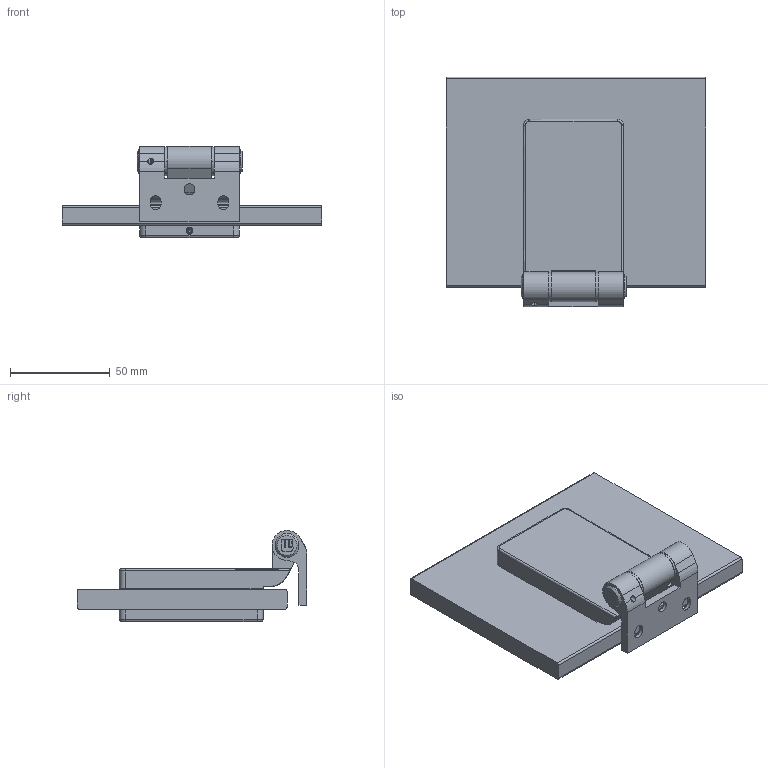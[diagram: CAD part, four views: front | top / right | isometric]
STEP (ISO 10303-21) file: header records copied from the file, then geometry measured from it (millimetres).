
FILE_DESCRIPTION((''),'2;1');
FILE_NAME('GAHA2STNEI','2025-05-14T11:56:50',(''),('PTC'),'CREO PARAMETRIC BY PTC INC, 18.00','CREO PARAMETRIC BY PTC INC, 18.00','');
FILE_SCHEMA(('CONFIG_CONTROL_DESIGN'));
Length unit declared in the file: millimetre
Products named in the file (18): TAPPO-PERNO; PERNO; U5927_M3X5_1; TAPPO-PERNO-2; CERNIERA; PIASTRA-DI-FISSAGGIO_ASM; COPERTURA-INTERNA; PIASTRA-INTERNA_ASM; COPERTURA-ESTERNA; U5927_M3X5; PIASTRA-ESTERNA_ASM; DISTANZIALI_1; VETRO; P1; DISTANZIALI; U5933_M5X20_1; G1_ASM; GAHA2STNEI
Assembly tree (17 placements, depth 3):
  GAHA2STNEI
    PIASTRA-DI-FISSAGGIO_ASM
      TAPPO-PERNO
      PERNO
      U5927_M3X5_1
      TAPPO-PERNO-2
      CERNIERA
    PIASTRA-INTERNA_ASM
      COPERTURA-INTERNA
    PIASTRA-ESTERNA_ASM
      COPERTURA-ESTERNA
      U5927_M3X5
    G1_ASM
      DISTANZIALI_1
      VETRO
      P1
      DISTANZIALI
      U5933_M5X20_1
Bounding box: 130 x 115.2 x 45.65 mm (x, y, z)
Volume: 211252.9 mm3; surface area: 68600.8 mm2
Topology: 13 solids, 13 shells, 610 faces, 1532 edges, 958 vertices
Faces by surface type: plane 188, cylinder 180, bspline 151, cone 70, extrusion 13, torus 8
Entity records: 22847 total; most frequent: CARTESIAN_POINT 9015, ORIENTED_EDGE 3028, DIRECTION 2509, EDGE_CURVE 1514, VERTEX_POINT 958, AXIS2_PLACEMENT_3D 923, VECTOR 663, EDGE_LOOP 658
